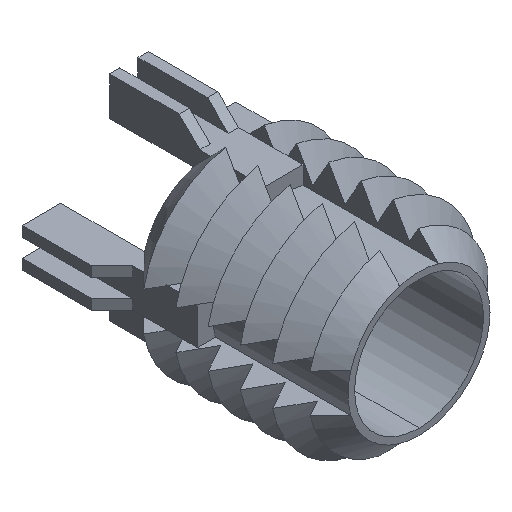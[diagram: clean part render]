
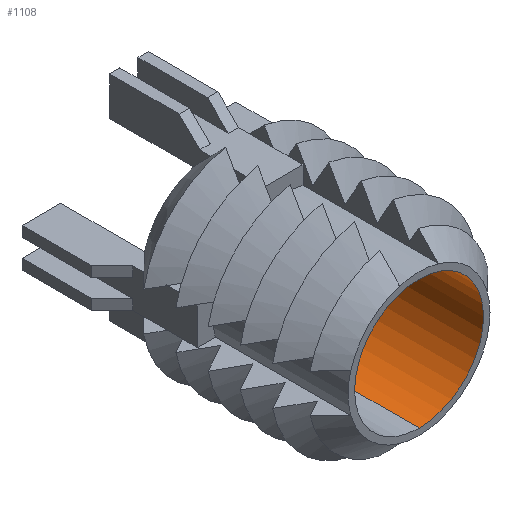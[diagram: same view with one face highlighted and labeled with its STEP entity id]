
A CAD part, isometric view. The second image highlights one B-rep face of the part: STEP entity #1108.
In plain terms, the highlighted cylindrical face has radius 2.5 mm (diameter 5 mm), a partial arc.
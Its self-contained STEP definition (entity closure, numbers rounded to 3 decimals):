
#91 = VERTEX_POINT ( 'NONE', #2212 ) ;
#126 = FACE_OUTER_BOUND ( 'NONE', #1142, .T. ) ;
#338 = VECTOR ( 'NONE', #3389, 1000. ) ;
#468 = DIRECTION ( 'NONE',  ( 0., 0., 1. ) ) ;
#505 = ORIENTED_EDGE ( 'NONE', *, *, #3878, .F. ) ;
#573 = LINE ( 'NONE', #1840, #1483 ) ;
#848 = DIRECTION ( 'NONE',  ( 0., 0., 1. ) ) ;
#855 = CARTESIAN_POINT ( 'NONE',  ( 0., 0., 0. ) ) ;
#1003 = AXIS2_PLACEMENT_3D ( 'NONE', #855, #1138, #468 ) ;
#1056 = EDGE_CURVE ( 'NONE', #2709, #1244, #573, .T. ) ;
#1084 = CARTESIAN_POINT ( 'NONE',  ( 0., -8., 2.5 ) ) ;
#1108 = ADVANCED_FACE ( 'NONE', ( #126 ), #3935, .F. ) ;
#1138 = DIRECTION ( 'NONE',  ( 0., 1., 0. ) ) ;
#1142 = EDGE_LOOP ( 'NONE', ( #505, #2036, #3259, #2114 ) ) ;
#1155 = CARTESIAN_POINT ( 'NONE',  ( 0., 0., 2.5 ) ) ;
#1232 = DIRECTION ( 'NONE',  ( 0., -1., 0. ) ) ;
#1244 = VERTEX_POINT ( 'NONE', #1155 ) ;
#1483 = VECTOR ( 'NONE', #2751, 1000. ) ;
#1672 = VERTEX_POINT ( 'NONE', #2810 ) ;
#1840 = CARTESIAN_POINT ( 'NONE',  ( 0., -15.071, 2.5 ) ) ;
#1848 = CARTESIAN_POINT ( 'NONE',  ( 0., -15.071, -2.5 ) ) ;
#2036 = ORIENTED_EDGE ( 'NONE', *, *, #2454, .T. ) ;
#2060 = CARTESIAN_POINT ( 'NONE',  ( 0., -15.071, 0. ) ) ;
#2114 = ORIENTED_EDGE ( 'NONE', *, *, #3795, .T. ) ;
#2138 = DIRECTION ( 'NONE',  ( 0., 0., 1. ) ) ;
#2212 = CARTESIAN_POINT ( 'NONE',  ( 0., 0., -2.5 ) ) ;
#2454 = EDGE_CURVE ( 'NONE', #1672, #2709, #3321, .T. ) ;
#2475 = AXIS2_PLACEMENT_3D ( 'NONE', #3631, #1232, #2138 ) ;
#2477 = AXIS2_PLACEMENT_3D ( 'NONE', #2060, #3317, #848 ) ;
#2709 = VERTEX_POINT ( 'NONE', #1084 ) ;
#2751 = DIRECTION ( 'NONE',  ( 0., 1., 0. ) ) ;
#2810 = CARTESIAN_POINT ( 'NONE',  ( 0., -8., -2.5 ) ) ;
#3259 = ORIENTED_EDGE ( 'NONE', *, *, #1056, .T. ) ;
#3317 = DIRECTION ( 'NONE',  ( 0., 1., 0. ) ) ;
#3321 = CIRCLE ( 'NONE', #2475, 2.5 ) ;
#3389 = DIRECTION ( 'NONE',  ( 0., 1., 0. ) ) ;
#3417 = LINE ( 'NONE', #1848, #338 ) ;
#3631 = CARTESIAN_POINT ( 'NONE',  ( 0., -8., 0. ) ) ;
#3771 = CIRCLE ( 'NONE', #1003, 2.5 ) ;
#3795 = EDGE_CURVE ( 'NONE', #1244, #91, #3771, .T. ) ;
#3878 = EDGE_CURVE ( 'NONE', #1672, #91, #3417, .T. ) ;
#3935 = CYLINDRICAL_SURFACE ( 'NONE', #2477, 2.5 ) ;
